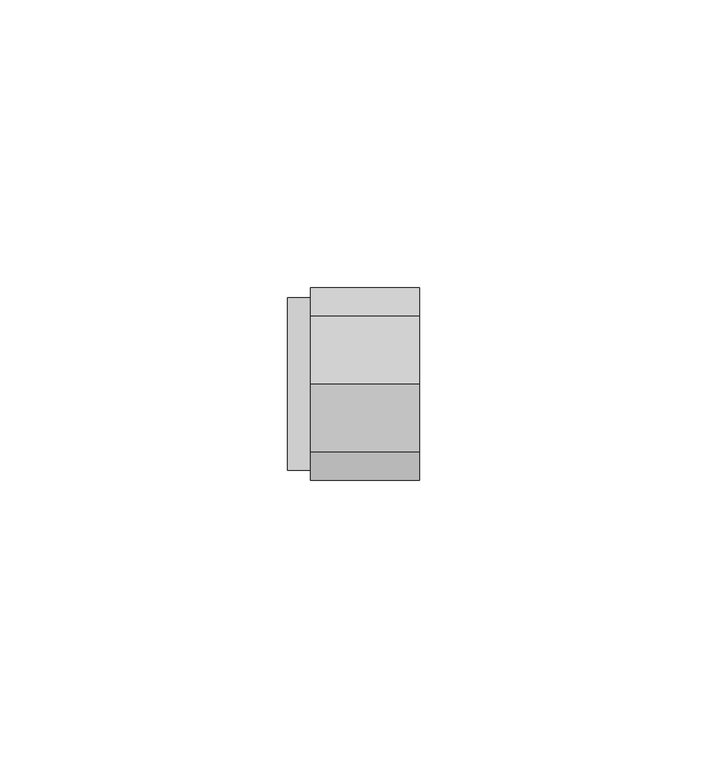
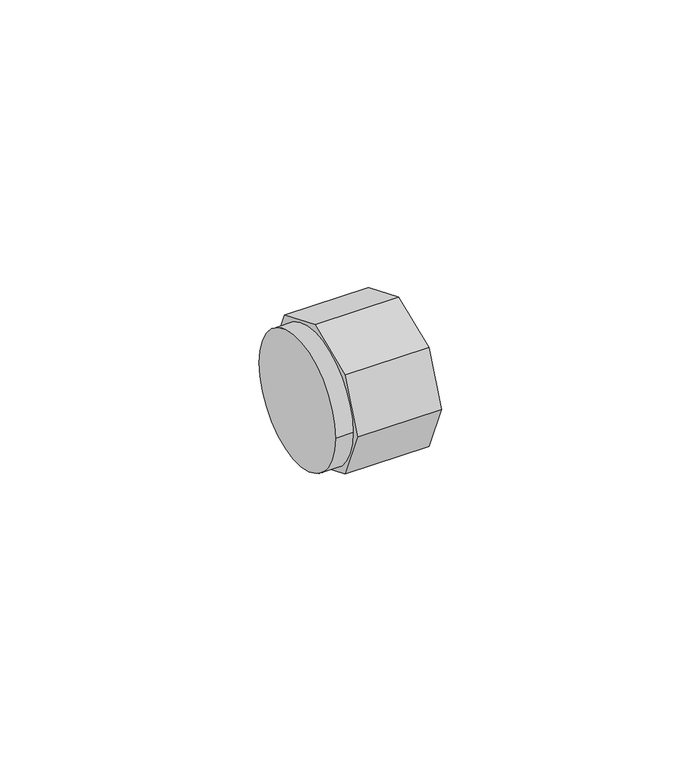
"""IFC4 building model written with IfcOpenShell, lengths in millimetres: pipe fitting geometry, REHAU_RAUTITAN_Cap_RX+ : REHAU_RAUTITAN_Cap_RX+."""

from ifc_helpers import new_model, si_unit, point, frame, origin, origin_2d, place, context, project, spatial, polyline, circle_curve, trimmed, segment, composite_curve, outline, extrude, source, transform, mapped, element, save


def pipe_fitting_762b57f7(model_context):
    return source(origin(), model_context, "Body", "SweptSolid", [
        extrude(outline(composite_curve([segment(trimmed(circle_curve(origin_2d(), 15.0), [point((-15.0, 0.0))], [point((15.0, 0.0))], False, "CARTESIAN"), True, "CONTINUOUS"), segment(trimmed(circle_curve(origin_2d(), 15.0), [point((15.0, 0.0))], [point((-15.0, 0.0))], False, "CARTESIAN"), True, "CONTINUOUS")], self_intersect=False)), frame((-11.5, 0.0, 0.0), z_axis=(1.0, 0.0, 0.0), x_axis=(0.0, 1.0, 0.0)), (0.0, 0.0, 1.0), 4.0),
        extrude(outline(polyline([(-11.8631864, 11.8631864), (0.0, 16.7770791), (11.8631864, 11.8631864), (16.7770791, 0.0), (11.8631864, -11.8631864), (0.0, -16.7770791), (-11.8631864, -11.8631864), (-16.7770791, 0.0), (-11.8631864, 11.8631864)]), holes=[composite_curve([segment(trimmed(circle_curve(origin_2d(), 13.2), [point((-13.2, 0.0))], [point((13.2, 0.0))], True, "CARTESIAN"), True, "CONTINUOUS"), segment(trimmed(circle_curve(origin_2d(), 13.2), [point((13.2, 0.0))], [point((-13.2, 0.0))], True, "CARTESIAN"), True, "CONTINUOUS")], self_intersect=False)]), frame((-7.5, 0.0, 0.0), z_axis=(1.0, 0.0, 0.0), x_axis=(0.0, 1.0, 0.0)), (0.0, 0.0, 1.0), 19.0),
    ])


if __name__ == "__main__":
    model = new_model("IFC4")
    model_context = context("Model", 3, world=origin())
    ifc_project = project(units=[si_unit("LENGTHUNIT", "METRE", prefix="MILLI")], contexts=[model_context])
    site = spatial("IfcSite", under=ifc_project)
    building = spatial("IfcBuilding", under=site)
    placement = place(None, origin())
    pipe_fitting_shape = pipe_fitting_762b57f7(model_context)
    element("IfcPipeFitting", 1, ObjectType="REHAU_RAUTITAN_Cap_RX+ : REHAU_RAUTITAN_Cap_RX+", at=placement, inside=building, context=model_context, shape_type="MappedRepresentation", body=[
        mapped(pipe_fitting_shape, transform((0.0, 0.0, 0.0), x_axis=(1.0, 0.0, 0.0), y_axis=(0.0, 1.0, 0.0), z_axis=(0.0, 0.0, 1.0))),
    ])
    save(model, "model.ifc")
